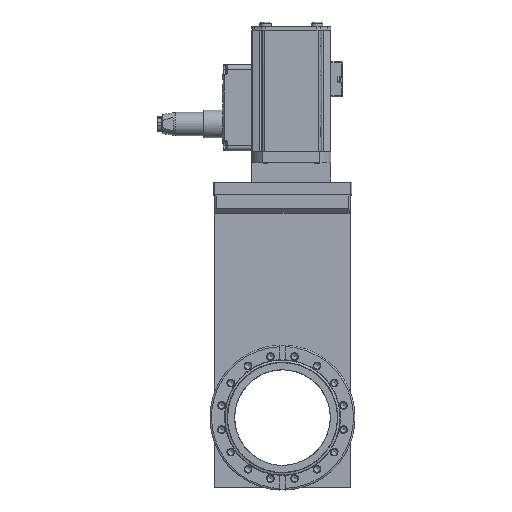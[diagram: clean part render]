
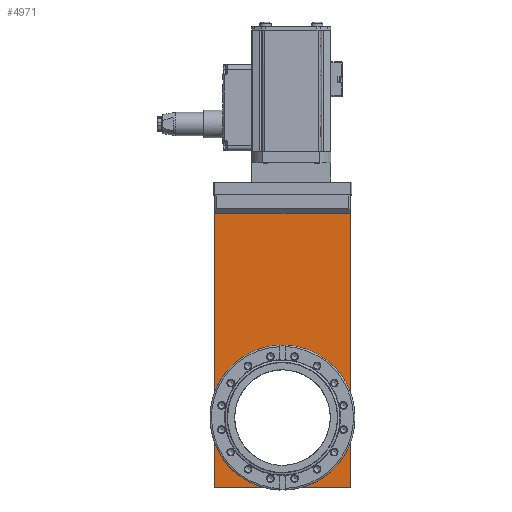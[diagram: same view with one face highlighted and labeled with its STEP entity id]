
A CAD part, top view. The second image highlights one B-rep face of the part: STEP entity #4971.
In plain terms, the highlighted free-form (B-spline) face has degree [1, 1] with [2, 2] control points.
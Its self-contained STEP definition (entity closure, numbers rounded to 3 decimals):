
#4833=CARTESIAN_POINT('V9',(50.05,0.0,0.0));
#4834=VERTEX_POINT('V9',#4833);
#4840=CARTESIAN_POINT('E13',(50.05,0.0,0.0));
#4841=CARTESIAN_POINT('E13',(50.05,-86.689,
   0.0));
#4842=CARTESIAN_POINT('E13',(-25.025,-43.345,
   0.0));
#4843=CARTESIAN_POINT('E13',(-100.1,0.,0.0)
   );
#4844=CARTESIAN_POINT('E13',(-25.025,43.345,
   0.0));
#4845=CARTESIAN_POINT('E13',(50.05,86.689,
   0.0));
#4846=CARTESIAN_POINT('E13',(50.05,0.0,0.0));
#4854=(BOUNDED_CURVE()B_SPLINE_CURVE(2,(#4840,#4841,#4842,#4843,
   #4844,#4845,#4846),.CIRCULAR_ARC.,.T.,.U.)
   B_SPLINE_CURVE_WITH_KNOTS((3,2,2,3),(0.0,0.333,
   0.667,1.0),.UNSPECIFIED.)CURVE()
   GEOMETRIC_REPRESENTATION_ITEM()RATIONAL_B_SPLINE_CURVE((1.0,
   0.5,1.0,0.5,1.0,0.5,1.0)
   )REPRESENTATION_ITEM('E13'));
#4855=EDGE_CURVE('E13',#4834,#4834,#4854,.T.);
#4866=CARTESIAN_POINT('V5',(-71.15,-233.0,0.0));
#4867=VERTEX_POINT('V5',#4866);
#4868=CARTESIAN_POINT('V1',(-71.15,73.05,
   0.0));
#4869=VERTEX_POINT('V1',#4868);
#4870=CARTESIAN_POINT('E5',(-71.15,-233.0,0.0));
#4871=CARTESIAN_POINT('E5',(-71.15,73.05,
   0.0));
#4872=QUASI_UNIFORM_CURVE('E5',1,(#4870,#4871),.POLYLINE_FORM.,.F.,
   .U.);
#4873=EDGE_CURVE('E5',#4867,#4869,#4872,.T.);
#4902=CARTESIAN_POINT('V7',(71.15,-233.0,0.0));
#4903=VERTEX_POINT('V7',#4902);
#4904=CARTESIAN_POINT('E8',(71.15,-233.0,0.0));
#4905=CARTESIAN_POINT('E8',(-71.15,-233.0,0.0));
#4906=QUASI_UNIFORM_CURVE('E8',1,(#4904,#4905),.POLYLINE_FORM.,.F.,
   .U.);
#4907=EDGE_CURVE('E8',#4903,#4867,#4906,.T.);
#4930=CARTESIAN_POINT('V2',(71.15,73.05,
   0.0));
#4931=VERTEX_POINT('V2',#4930);
#4932=CARTESIAN_POINT('E11',(71.15,-233.0,0.0));
#4933=CARTESIAN_POINT('E11',(71.15,73.05,
   0.0));
#4934=QUASI_UNIFORM_CURVE('E11',1,(#4932,#4933),.POLYLINE_FORM.,.F.,
   .U.);
#4935=EDGE_CURVE('E11',#4903,#4931,#4934,.T.);
#4953=CARTESIAN_POINT('F5',(-74.707,80.701,
   0.0));
#4954=CARTESIAN_POINT('F5',(74.707,80.701,
   0.0));
#4955=CARTESIAN_POINT('F5',(-74.707,-240.651,
   0.0));
#4956=CARTESIAN_POINT('F5',(74.707,-240.651,
   0.0));
#4957=B_SPLINE_SURFACE_WITH_KNOTS('F5',1,1,((#4953,#4955),(#4954,
   #4956)),.PLANE_SURF.,.F.,.F.,.U.,(2,2),(2,2),(0.0,1.0),(0.0,
   2.151),.UNSPECIFIED.);
#4958=ORIENTED_EDGE('E11',*,*,#4935,.T.);
#4959=CARTESIAN_POINT('E1',(-71.15,73.05,
   0.0));
#4960=CARTESIAN_POINT('E1',(71.15,73.05,
   0.0));
#4961=QUASI_UNIFORM_CURVE('E1',1,(#4959,#4960),.POLYLINE_FORM.,.F.,
   .U.);
#4962=EDGE_CURVE('E1',#4869,#4931,#4961,.T.);
#4963=ORIENTED_EDGE('E1',*,*,#4962,.F.);
#4964=ORIENTED_EDGE('E5',*,*,#4873,.F.);
#4965=ORIENTED_EDGE('E8',*,*,#4907,.F.);
#4966=EDGE_LOOP('F5',(#4958,#4963,#4964,#4965));
#4967=FACE_OUTER_BOUND('F5',#4966,.F.);
#4968=ORIENTED_EDGE('E13',*,*,#4855,.T.);
#4969=EDGE_LOOP('F5',(#4968));
#4970=FACE_BOUND('F5',#4969,.F.);
#4971=ADVANCED_FACE('F5',(#4967,#4970),#4957,.T.);
